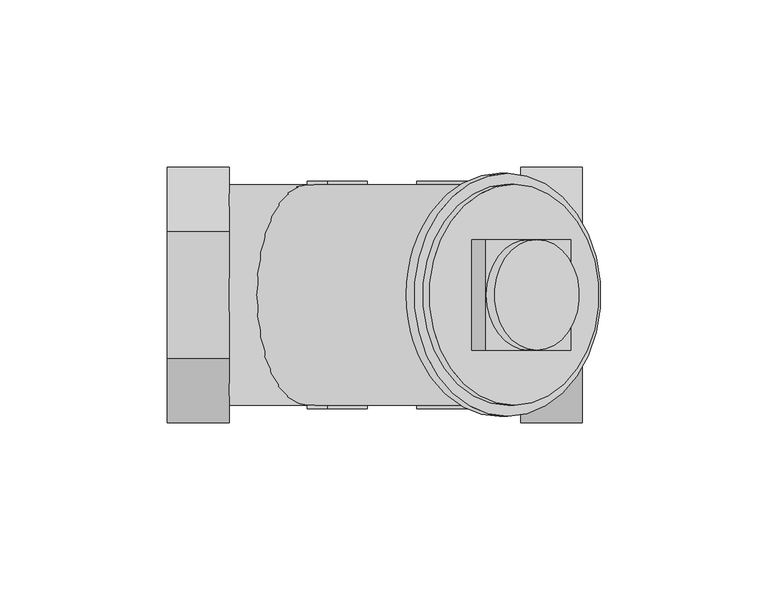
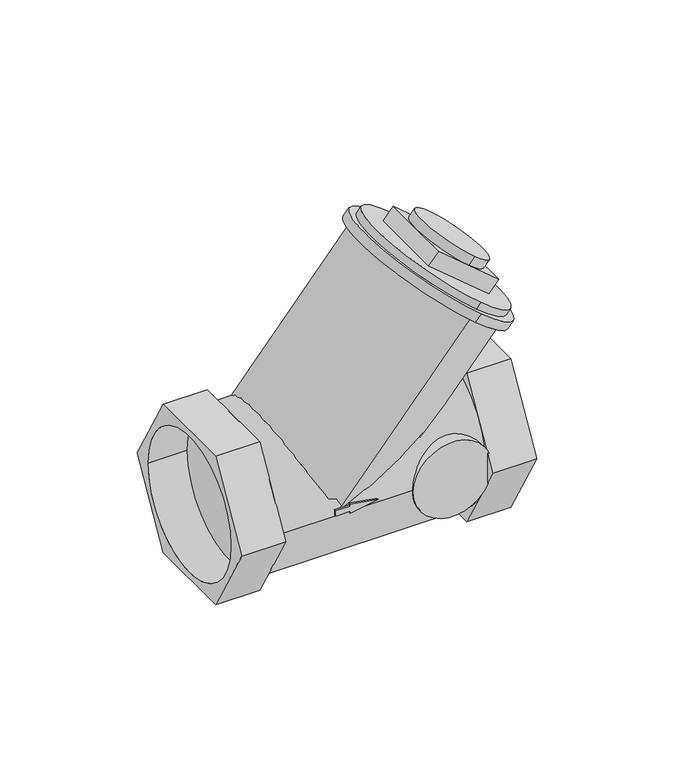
"""IFC4 building model written with IfcOpenShell, lengths in millimetres: valve geometry, 400_5-_KOMF_terugslagklep_PN_25_brons_DN15-50 : DN50 2”."""

import ifcopenshell
import ifcopenshell.guid

model = None  # the IFC model being written
_history = None  # IfcOwnerHistory: only IFC2X3 demands one
_inside = {}  # id of a spatial element -> (the spatial element, [elements in it])
_under = {}  # id of a project, library or spatial element -> (it, [spatial elements below it])
_declared = {}  # id of a project -> (the project, [libraries it declares])
_typed = {}  # id of a type object -> (the type object, [elements of that type])
_made_of = {}  # id of a material, layer set ... -> (it, [elements and type objects made of it])


def new_model(schema):
    """Start an empty IFC model of exactly this schema.

    Asked for "IFC4X3", IfcOpenShell would pick the latest addendum, in which some entities
    have other attributes; the version numbers below select the first issue.
    IFC2X3 requires an IfcOwnerHistory on every rooted entity: one is made here for all.
    """
    global model, _history
    if schema == "IFC4X3":
        model = ifcopenshell.file(schema_version=(4, 3, 0, 0))
    else:
        model = ifcopenshell.file(schema=schema)
    _inside.clear()
    _under.clear()
    _declared.clear()
    _typed.clear()
    _made_of.clear()
    _history = None
    if model.schema == "IFC2X3":
        org = make("IfcOrganization", Name="unknown")
        user = make(
            "IfcPersonAndOrganization",
            ThePerson=make("IfcPerson", FamilyName="unknown"),
            TheOrganization=org,
        )
        app = make(
            "IfcApplication",
            ApplicationDeveloper=org,
            Version="unknown",
            ApplicationFullName="unknown",
            ApplicationIdentifier="unknown",
        )
        _history = make(
            "IfcOwnerHistory",
            OwningUser=user,
            OwningApplication=app,
            ChangeAction="ADDED",
            CreationDate=0,
        )
    return model


def make(cls, **values):
    """One entity of the class cls with the attributes given. An attribute that is None is left unset."""
    return model.create_entity(
        cls, **{name: value for name, value in values.items() if value is not None}
    )


def rooted(cls, **values):
    """An entity with a GlobalId (a new one), such as an element, a storey or a relation."""
    return make(cls, GlobalId=ifcopenshell.guid.new(), OwnerHistory=_history, **values)


def si_unit(unit_type, name, prefix=None):
    """IfcSIUnit, for example si_unit("LENGTHUNIT", "METRE", prefix="MILLI")."""
    return make("IfcSIUnit", UnitType=unit_type, Prefix=prefix, Name=name)


def assignment(units):
    """IfcUnitAssignment: the units of a project."""
    return None if units is None else make("IfcUnitAssignment", Units=units)


def point(xyz):
    """IfcCartesianPoint."""
    return None if xyz is None else make("IfcCartesianPoint", Coordinates=xyz)


def direction(xyz):
    """IfcDirection."""
    return None if xyz is None else make("IfcDirection", DirectionRatios=xyz)


def frame(location, z_axis=None, x_axis=None):
    """IfcAxis2Placement3D, a coordinate frame: its origin and axes. An axis left out is left unset."""
    return make(
        "IfcAxis2Placement3D",
        Location=point(location),
        Axis=direction(z_axis),
        RefDirection=direction(x_axis),
    )


def frame_2d(location, x_axis=None):
    """IfcAxis2Placement2D, a coordinate frame in the plane: its origin and x axis."""
    return make(
        "IfcAxis2Placement2D", Location=point(location), RefDirection=direction(x_axis)
    )


def origin():
    """The frame at (0, 0, 0) with its axes left unset."""
    return frame((0.0, 0.0, 0.0))


def origin_2d():
    """The frame at (0, 0) in the plane with its x axis left unset."""
    return frame_2d((0.0, 0.0))


def place(relative_to, where):
    """IfcLocalPlacement: puts the frame where relative to a parent placement (None: the world)."""
    return make(
        "IfcLocalPlacement", PlacementRelTo=relative_to, RelativePlacement=where
    )


def context(
    kind, dimensions, precision=None, world=None, true_north=None, identifier=None
):
    """IfcGeometricRepresentationContext, for example the 3D "Model" context."""
    return make(
        "IfcGeometricRepresentationContext",
        ContextIdentifier=identifier,
        ContextType=kind,
        CoordinateSpaceDimension=dimensions,
        Precision=precision,
        WorldCoordinateSystem=world,
        TrueNorth=true_north,
    )


def project(units=None, contexts=None):
    """IfcProject with its units and contexts."""
    return rooted(
        "IfcProject",
        Name="project",
        RepresentationContexts=contexts,
        UnitsInContext=assignment(units),
    )


def spatial(cls, under=None, at=None, **own):
    """A site, building, storey or space (cls), placed at a placement, below another one or the project."""
    s = rooted(cls, ObjectPlacement=at, **own)
    if under is not None:
        _under.setdefault(under.id(), (under, []))[1].append(s)
    return s


def polyline(points):
    """IfcPolyline through the points."""
    return make("IfcPolyline", Points=[point(p) for p in points])


def circle_curve(where, radius):
    """IfcCircle in the frame where."""
    return make("IfcCircle", Position=where, Radius=radius)


def ellipse_curve(where, semi_axis1, semi_axis2):
    """IfcEllipse in the frame where."""
    return make(
        "IfcEllipse", Position=where, SemiAxis1=semi_axis1, SemiAxis2=semi_axis2
    )


def trimmed(basis, trim1, trim2, sense, master):
    """IfcTrimmedCurve: the piece of a basis curve between two trims."""
    return make(
        "IfcTrimmedCurve",
        BasisCurve=basis,
        Trim1=trim1,
        Trim2=trim2,
        SenseAgreement=sense,
        MasterRepresentation=master,
    )


def segment(curve, same_sense, transition):
    """IfcCompositeCurveSegment."""
    return make(
        "IfcCompositeCurveSegment",
        Transition=transition,
        SameSense=same_sense,
        ParentCurve=curve,
    )


def composite_curve(segments, self_intersect=None):
    """IfcCompositeCurve: segments joined end to end."""
    return make("IfcCompositeCurve", Segments=segments, SelfIntersect=self_intersect)


def outline(outer, holes=None, kind="AREA"):
    """IfcArbitraryClosedProfileDef: a profile drawn as a closed curve; with holes, ...WithVoids."""
    if holes is None:
        return make("IfcArbitraryClosedProfileDef", ProfileType=kind, OuterCurve=outer)
    return make(
        "IfcArbitraryProfileDefWithVoids",
        ProfileType=kind,
        OuterCurve=outer,
        InnerCurves=holes,
    )


def extrude(swept, where, along, depth):
    """IfcExtrudedAreaSolid: the profile swept, set in the frame where, extruded along a direction by depth."""
    return make(
        "IfcExtrudedAreaSolid",
        SweptArea=swept,
        Position=where,
        ExtrudedDirection=direction(along),
        Depth=depth,
    )


def shape(context_of_items, identifier, shape_type, items):
    """IfcShapeRepresentation: the items that make up one representation, for example the "Body"."""
    return make(
        "IfcShapeRepresentation",
        ContextOfItems=context_of_items,
        RepresentationIdentifier=identifier,
        RepresentationType=shape_type,
        Items=items,
    )


def source(mapping_origin, context_of_items, identifier, shape_type, items):
    """IfcRepresentationMap: a shape defined once, which mapped items show again and again."""
    return make(
        "IfcRepresentationMap",
        MappingOrigin=mapping_origin,
        MappedRepresentation=shape(context_of_items, identifier, shape_type, items),
    )


def transform(
    local_origin,
    x_axis=None,
    y_axis=None,
    z_axis=None,
    scale=None,
    scale2=None,
    scale3=None,
    uniform=True,
):
    """IfcCartesianTransformationOperator3D, or its non-uniform kind. x_axis, y_axis, z_axis: its Axis1, 2, 3."""
    if uniform:
        return make(
            "IfcCartesianTransformationOperator3D",
            Axis1=direction(x_axis),
            Axis2=direction(y_axis),
            LocalOrigin=point(local_origin),
            Scale=scale,
            Axis3=direction(z_axis),
        )
    return make(
        "IfcCartesianTransformationOperator3DnonUniform",
        Axis1=direction(x_axis),
        Axis2=direction(y_axis),
        LocalOrigin=point(local_origin),
        Scale=scale,
        Axis3=direction(z_axis),
        Scale2=scale2,
        Scale3=scale3,
    )


def mapped(mapping_source, mapping_target):
    """IfcMappedItem: shows the shape of a source again, moved by a transform."""
    return make(
        "IfcMappedItem", MappingSource=mapping_source, MappingTarget=mapping_target
    )


def made_of(thing, what):
    """Note that an element or type object is made of a material, layer set ...; save() writes the relation."""
    if what is not None:
        _made_of.setdefault(what.id(), (what, []))[1].append(thing)
    return thing


def element(
    cls,
    number,
    at=None,
    inside=None,
    cuts=None,
    type_object=None,
    material=None,
    context=None,
    identifier="Body",
    shape_type=None,
    held_by="IfcProductDefinitionShape",
    body=None,
    shapes=None,
    **own,
):
    """One element of the class cls, such as IfcWall. Its Tag is "e" and its number.

    at: its placement. inside: the storey or other place that contains it. cuts: it is an
    opening in that element (IfcRelVoidsElement). A single representation is given by context,
    identifier, shape_type and body (its items); several are given by shapes. held_by: the class
    of the entity that holds the representations. save() writes the other relations.
    """
    e = rooted(cls, Tag="e%d" % number, ObjectPlacement=at, **own)
    if body is not None:
        shapes = [shape(context, identifier, shape_type, body)]
    if shapes is not None:
        e.Representation = make(held_by, Representations=shapes)
    if inside is not None:
        _inside.setdefault(inside.id(), (inside, []))[1].append(e)
    if cuts is not None:
        rooted(
            "IfcRelVoidsElement", RelatingBuildingElement=cuts, RelatedOpeningElement=e
        )
    if type_object is not None:
        _typed.setdefault(type_object.id(), (type_object, []))[1].append(e)
    return made_of(e, material)


def aggregate(whole, parts):
    """IfcRelAggregates: a whole, such as a stair, and the parts it consists of."""
    return rooted("IfcRelAggregates", RelatingObject=whole, RelatedObjects=parts)


def save(model, path):
    """Write the relations noted so far, then the file.

    IfcRelAggregates (storeys below a building ...), IfcRelContainedInSpatialStructure (elements
    in a storey), IfcRelDefinesByType, IfcRelAssociatesMaterial and IfcRelDeclares: one each for
    every whole, place, type object, material and project.
    """
    for whole, parts in _under.values():
        aggregate(whole, parts)
    for where, things in _inside.values():
        rooted(
            "IfcRelContainedInSpatialStructure",
            RelatedElements=things,
            RelatingStructure=where,
        )
    for kind, things in _typed.values():
        rooted("IfcRelDefinesByType", RelatedObjects=things, RelatingType=kind)
    for what, things in _made_of.values():
        rooted("IfcRelAssociatesMaterial", RelatedObjects=things, RelatingMaterial=what)
    for by, libraries in _declared.values():
        rooted("IfcRelDeclares", RelatingContext=by, RelatedDefinitions=libraries)
    model.write(path)


def plane_surface(at):
    """IfcPlane: the flat surface through the origin of the frame at, square to its z axis."""
    return make("IfcPlane", Position=at)


def cylinder_surface(at, radius):
    """IfcCylindricalSurface: all points at the distance radius from the z axis of the frame at."""
    return make("IfcCylindricalSurface", Position=at, Radius=radius)


def revolved_surface(curve, axis_point, axis_direction):
    """IfcSurfaceOfRevolution: the curve turned about the line through axis_point along axis_direction."""
    return make(
        "IfcSurfaceOfRevolution",
        SweptCurve=make("IfcArbitraryOpenProfileDef", ProfileType="CURVE", Curve=curve),
        AxisPosition=make("IfcAxis1Placement", Location=point(axis_point), Axis=direction(axis_direction)),
    )


def advanced_brep(points, edges, surfaces, faces):
    """IfcAdvancedBrep: a solid bounded by faces that lie on surfaces and meet in shared edges.

    An edge is (start, end): straight between two places in points (the first is 0);
    or (start, end, curve); or (start, end, curve, False) where it runs against its curve.
    A face is (place in surfaces, loops), or (place, loops, False) where it looks against
    its surface's normal. A loop lists edges by number (the first is 1), with a minus sign
    where the edge is run from its end to its start. The first loop is the outer one.
    """
    corners = [point(p) for p in points]
    vertices = [make("IfcVertexPoint", VertexGeometry=c) for c in corners]
    made = []
    for start, end, *more in edges:
        made.append(
            make(
                "IfcEdgeCurve",
                EdgeStart=vertices[start],
                EdgeEnd=vertices[end],
                EdgeGeometry=more[0] if more else make("IfcPolyline", Points=[corners[start], corners[end]]),
                SameSense=more[1] if len(more) > 1 else True,
            )
        )
    hull = []
    for where, loops, *sense in faces:
        bounds = []
        for j, loop in enumerate(loops):
            ring = [make("IfcOrientedEdge", EdgeElement=made[abs(k) - 1], Orientation=k > 0) for k in loop]
            bounds.append(
                make(
                    "IfcFaceOuterBound" if j == 0 else "IfcFaceBound",
                    Bound=make("IfcEdgeLoop", EdgeList=ring),
                    Orientation=True,
                )
            )
        hull.append(make("IfcAdvancedFace", Bounds=bounds, FaceSurface=surfaces[where], SameSense=sense[0] if sense else True))
    return make("IfcAdvancedBrep", Outer=make("IfcClosedShell", CfsFaces=hull))


def valve_750de32e(model_context):
    return source(origin(), model_context, "Body", "SolidModel", [
        extrude(outline(composite_curve([segment(trimmed(circle_curve(origin_2d(), 33.0), [point((-33.0, 0.0))], [point((33.0, 0.0))], False, "CARTESIAN"), True, "CONTINUOUS"), segment(trimmed(circle_curve(origin_2d(), 33.0), [point((33.0, 0.0))], [point((-33.0, 0.0))], False, "CARTESIAN"), True, "CONTINUOUS")], self_intersect=False)), frame((-51.9929699, 0.0, 0.0), z_axis=(1.0, 0.0, 0.0), x_axis=(0.0, 1.0, 0.0)), (0.0, 0.0, 1.0), 86.9929669),
        extrude(outline(composite_curve([segment(trimmed(circle_curve(frame_2d((0.0, 20.499997)), 16.5), [point((0.0, 3.999997))], [point((0.0, 36.999997))], False, "CARTESIAN"), True, "CONTINUOUS"), segment(trimmed(circle_curve(frame_2d((0.0, 20.499997)), 16.5), [point((0.0, 36.999997))], [point((0.0, 3.999997))], False, "CARTESIAN"), True, "CONTINUOUS")], self_intersect=False)), frame((0.0, -34.0, 0.0), z_axis=(0.0, 1.0, 0.0), x_axis=(0.0, 0.0, 1.0)), (0.0, 0.0, 1.0), 68.0),
        advanced_brep(
        [(-51.9929699, -19.0525589, 33.0), (-51.9929699, -28.5788383, 16.5), (-51.9929699, -38.1051178, 0.0), (-51.9929699, -28.5788383, -16.5), (-51.9929699, -19.0525589, -33.0), (-51.9929699, 0.0, -33.0), (-51.9929699, 19.0525589, -33.0), (-51.9929699, 28.5788383, -16.5), (-51.9929699, 38.1051178, 0.0), (-51.9929699, 28.5788383, 16.5), (-51.9929699, 19.0525589, 33.0), (-51.9929699, 0.0, 33.0), (-51.9929699, 12.8862461, 19.5278903), (-51.9929699, -12.8862461, 19.5278903), (-70.500003, -19.0525589, 33.0), (-70.500003, 19.0525589, 33.0), (-70.500003, 38.1051178, 0.0), (-70.500003, 19.0525589, -33.0), (-70.500003, -19.0525589, -33.0), (-70.500003, -38.1051178, 0.0), (-70.500003, -30.15, 0.0), (-70.500003, 30.15, 0.0), (-54.000003, -30.15, 0.0), (-54.000003, 30.15, 0.0), (53.499997, -19.0525589, 33.0), (53.499997, -38.1051178, 0.0), (53.499997, -19.0525589, -33.0), (53.499997, 19.0525589, -33.0), (53.499997, 38.1051178, 0.0), (53.499997, 19.0525589, 33.0), (53.499997, 30.15, 0.0), (53.499997, -30.15, 0.0), (34.999997, 18.0886022, 33.0), (34.999997, 19.0525589, 33.0), (34.999997, 28.5788383, 16.5), (34.999997, 38.1051178, 0.0), (34.999997, 28.5788383, -16.5), (34.999997, 19.0525589, -33.0), (34.999997, 0.0, -33.0), (34.999997, -19.0525589, -33.0), (34.999997, -28.5788383, -16.5), (34.999997, -38.1051178, 0.0), (34.999997, -28.5788383, 16.5), (34.999997, -19.0525589, 33.0), (34.999997, -18.0886022, 33.0), (34.999997, -14.3567226, 29.7133727), (34.999997, 14.3567226, 29.7133727), (-28.7205364, -34.0, 3.1116273), (-28.7205364, -34.0, 0.829442), (-22.5788058, -34.0, 0.829442), (-22.5788058, -34.0, 0.0332575), (-10.8483948, -34.0, 1.9705347), (-22.5788058, -34.0, 3.9078118), (-22.5788058, -34.0, 3.1116273), (-28.7205364, 34.0, 3.1116273), (-22.5788058, 34.0, 3.1116273), (-22.5788058, 34.0, 3.9078118), (-10.8483948, 34.0, 1.9705347), (-22.5788058, 34.0, 0.0332575), (-22.5788058, 34.0, 0.829442), (-28.7205364, 34.0, 0.829442), (-28.7205364, -32.9393312, 3.1116273), (-28.7205364, -32.9956928, 0.829442), (-28.7205364, 32.9956928, 0.829442), (-28.7205364, 32.9393312, 3.1116273), (-28.0245519, -33.0, 0.829442), (-26.9417923, -32.9895745, 0.829442), (-22.5788058, -32.7352571, 0.829442), (-22.5788058, -32.9895745, 0.829442), (-22.5788058, 32.9895745, 0.829442), (-22.5788058, 32.7352571, 0.829442), (-26.9417923, 32.9895745, 0.829442), (-28.0245519, 33.0, 0.829442), (-22.5788058, -32.6659638, 0.0332575), (-22.5788058, -32.9999832, 0.0332575), (-22.5788058, 32.9999832, 0.0332575), (-22.5788058, 32.6659638, 0.0332575), (-10.8483948, -30.5718624, 1.9705347), (-10.8483948, -32.941114, 1.9705347), (-10.8483948, 32.941114, 1.9705347), (-10.8483948, 30.5718624, 1.9705347), (-20.9256849, -32.7992109, 3.6347989), (-22.5788058, -32.9270556, 3.9078118), (-22.5788058, 32.9270556, 3.9078118), (-20.9256849, 32.7992109, 3.6347989), (-22.5788058, -32.8889719, 3.1116273), (-22.5788058, 32.8889719, 3.1116273), (-26.109571, -33.0, 3.1116273), (-26.109571, 33.0, 3.1116273), (49.9394198, 0.0, 68.0738422), (49.9394198, 16.5, 68.0738422), (37.2996865, 16.5, 78.6798378), (24.6599532, 16.5, 89.2858333), (24.6599532, 0.0, 89.2858333), (24.6599532, -16.5, 89.2858333), (37.2996865, -16.5, 78.6798378), (49.9394198, -16.5, 68.0738422), (20.4337115, 16.5, 84.2491946), (20.4337115, -16.5, 84.2491946), (45.7131781, -16.5, 63.0372035), (45.7131781, 16.5, 63.0372035), (-28.7205364, 33.0, 0.0), (-28.7205364, -33.0, 0.0), (28.6943989, -33.0, 68.4244553), (28.6943989, 33.0, 68.4244553), (28.6943989, 36.3, 68.4244553), (28.6943989, -36.3, 68.4244553), (31.1317523, 36.3, 71.3291801), (31.1317523, -36.3, 71.3291801), (31.1317523, 33.0, 71.3291801), (31.1317523, -33.0, 71.3291801), (33.0734448, -33.0, 73.6431991), (33.0734448, 33.0, 73.6431991), (39.8670589, 16.5, 81.739513), (39.8670589, -16.5, 81.739513), (36.999997, -30.15, 0.0), (36.999997, 30.15, 0.0)],
        [
            (0, 1),
            (1, 2),
            (2, 3),
            (3, 4),
            (4, 5),
            (5, 6),
            (6, 7),
            (7, 8),
            (8, 9),
            (9, 10),
            (10, 11),
            (11, 0),
            (12, 13),
            (13, 12, ellipse_curve(frame((-51.9929699, 0.0, -27.7350062), z_axis=(-1.0, 0.0, 0.0), x_axis=(0.0, 0.0, 1.0)), 51.3388863, 33.0)),
            (14, 15),
            (15, 16),
            (16, 17),
            (17, 18),
            (18, 19),
            (19, 14),
            (20, 21, circle_curve(frame((-70.500003, 0.0, 0.0), z_axis=(1.0, 0.0, 0.0), x_axis=(0.0, 1.0, 0.0)), 30.15)),
            (21, 20, circle_curve(frame((-70.500003, 0.0, 0.0), z_axis=(1.0, 0.0, 0.0), x_axis=(0.0, 1.0, 0.0)), 30.15)),
            (19, 2),
            (0, 14),
            (18, 4),
            (17, 6),
            (16, 8),
            (15, 10),
            (22, 23, circle_curve(frame((-54.000003, 0.0, 0.0), z_axis=(-1.0, 0.0, 0.0), x_axis=(0.0, 1.0, 0.0)), 30.15)),
            (23, 22, circle_curve(frame((-54.000003, 0.0, 0.0), z_axis=(-1.0, 0.0, 0.0), x_axis=(0.0, 1.0, 0.0)), 30.15)),
            (24, 25),
            (25, 26),
            (26, 27),
            (27, 28),
            (28, 29),
            (29, 24),
            (30, 31, circle_curve(frame((53.499997, 0.0, 0.0), z_axis=(-1.0, 0.0, 0.0), x_axis=(0.0, 1.0, 0.0)), 30.15)),
            (31, 30, circle_curve(frame((53.499997, 0.0, 0.0), z_axis=(-1.0, 0.0, 0.0), x_axis=(0.0, 1.0, 0.0)), 30.15)),
            (32, 33),
            (33, 34),
            (34, 35),
            (35, 36),
            (36, 37),
            (37, 38),
            (38, 39),
            (39, 40),
            (40, 41),
            (41, 42),
            (42, 43),
            (43, 44),
            (44, 45, ellipse_curve(frame((34.999997, 0.0, 75.9391746), z_axis=(1.0, 0.0, 0.0), x_axis=(0.0, 0.0, 1.0)), 51.3388863, 33.0)),
            (45, 46, ellipse_curve(frame((34.999997, 0.0, 75.9391746), z_axis=(1.0, 0.0, 0.0), x_axis=(0.0, 0.0, 1.0)), 51.3388863, 33.0)),
            (46, 32, ellipse_curve(frame((34.999997, 0.0, 75.9391746), z_axis=(1.0, 0.0, 0.0), x_axis=(0.0, 0.0, 1.0)), 51.3388863, 33.0)),
            (24, 43),
            (41, 25),
            (39, 26),
            (37, 27),
            (35, 28),
            (33, 29),
            (32, 44, ellipse_curve(frame((-1.0302486, 0.0, 33.0), z_axis=(0.0, 0.0, -1.0), x_axis=(1.0, 0.0, 0.0)), 43.0784405, 33.0)),
            (47, 48),
            (48, 49),
            (49, 50),
            (50, 51),
            (51, 52),
            (52, 53),
            (53, 47),
            (54, 55),
            (55, 56),
            (56, 57),
            (57, 58),
            (58, 59),
            (59, 60),
            (60, 54),
            (47, 61),
            (61, 62, ellipse_curve(frame((-28.7205364, 0.0, 0.0), z_axis=(1.0, 0.0, 0.0), x_axis=(0.0, 0.0, 1.0)), 51.3388863, 33.0)),
            (62, 48),
            (60, 63),
            (63, 64, ellipse_curve(frame((-28.7205364, 0.0, 0.0), z_axis=(1.0, 0.0, 0.0), x_axis=(0.0, 0.0, 1.0)), 51.3388863, 33.0)),
            (64, 54),
            (62, 65, ellipse_curve(frame((-28.0245519, 0.0, 0.829442), z_axis=(0.0, 0.0, 1.0), x_axis=(1.0, 0.0, 0.0)), 43.0784405, 33.0)),
            (65, 66, ellipse_curve(frame((-28.0245519, 0.0, 0.829442), z_axis=(0.0, 0.0, 1.0), x_axis=(1.0, 0.0, 0.0)), 43.0784405, 33.0)),
            (66, 67, ellipse_curve(frame((-28.0245519, 0.0, 0.829442), z_axis=(0.0, 0.0, 1.0), x_axis=(1.0, 0.0, 0.0)), 43.0784405, 33.0)),
            (67, 68),
            (68, 49),
            (59, 69),
            (69, 70),
            (70, 71, ellipse_curve(frame((-28.0245519, 0.0, 0.829442), z_axis=(0.0, 0.0, 1.0), x_axis=(1.0, 0.0, 0.0)), 43.0784405, 33.0)),
            (71, 72, ellipse_curve(frame((-28.0245519, 0.0, 0.829442), z_axis=(0.0, 0.0, 1.0), x_axis=(1.0, 0.0, 0.0)), 43.0784405, 33.0)),
            (72, 63, ellipse_curve(frame((-28.0245519, 0.0, 0.829442), z_axis=(0.0, 0.0, 1.0), x_axis=(1.0, 0.0, 0.0)), 43.0784405, 33.0)),
            (67, 73, ellipse_curve(frame((-22.5788058, 0.0, 7.3194295), z_axis=(1.0, 0.0, 0.0), x_axis=(0.0, 0.0, 1.0)), 51.3388863, 33.0)),
            (73, 74),
            (74, 50),
            (58, 75),
            (75, 76),
            (76, 70, ellipse_curve(frame((-22.5788058, 0.0, 7.3194295), z_axis=(1.0, 0.0, 0.0), x_axis=(0.0, 0.0, 1.0)), 51.3388863, 33.0)),
            (73, 77, ellipse_curve(frame((-29.6761625, 0.0, -1.1388708), z_axis=(-0.1629428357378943, 0.0, 0.9866355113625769), x_axis=(0.9866355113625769, 0.0, 0.1629428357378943)), 50.6858708, 33.0)),
            (77, 78),
            (78, 51),
            (57, 79),
            (79, 80),
            (80, 76, ellipse_curve(frame((-29.6761625, 0.0, -1.1388708), z_axis=(-0.1629428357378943, 0.0, 0.9866355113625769), x_axis=(0.9866355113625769, 0.0, 0.1629428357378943)), 50.6858708, 33.0)),
            (77, 81, ellipse_curve(frame((-25.0930727, 0.0, 4.3230429), z_axis=(-0.1629428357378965, 0.0, -0.9866355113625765), x_axis=(0.9866355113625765, 0.0, -0.16294283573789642)), 38.347823, 33.0)),
            (81, 82, ellipse_curve(frame((-25.0930727, 0.0, 4.3230429), z_axis=(-0.1629428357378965, 0.0, -0.9866355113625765), x_axis=(0.9866355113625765, 0.0, -0.16294283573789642)), 38.347823, 33.0)),
            (82, 52),
            (56, 83),
            (83, 84, ellipse_curve(frame((-25.0930727, 0.0, 4.3230429), z_axis=(-0.1629428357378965, 0.0, -0.9866355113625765), x_axis=(0.9866355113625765, 0.0, -0.16294283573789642)), 38.347823, 33.0)),
            (84, 80, ellipse_curve(frame((-25.0930727, 0.0, 4.3230429), z_axis=(-0.1629428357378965, 0.0, -0.9866355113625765), x_axis=(0.9866355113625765, 0.0, -0.16294283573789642)), 38.347823, 33.0)),
            (82, 85, ellipse_curve(frame((-22.5788058, 0.0, 7.3194295), z_axis=(1.0, 0.0, 0.0), x_axis=(0.0, 0.0, 1.0)), 51.3388863, 33.0)),
            (85, 53),
            (55, 86),
            (86, 83, ellipse_curve(frame((-22.5788058, 0.0, 7.3194295), z_axis=(1.0, 0.0, 0.0), x_axis=(0.0, 0.0, 1.0)), 51.3388863, 33.0)),
            (85, 87, ellipse_curve(frame((-26.109571, 0.0, 3.1116273), z_axis=(0.0, 0.0, -1.0), x_axis=(1.0, 0.0, 0.0)), 43.0784405, 33.0)),
            (87, 61, ellipse_curve(frame((-26.109571, 0.0, 3.1116273), z_axis=(0.0, 0.0, -1.0), x_axis=(1.0, 0.0, 0.0)), 43.0784405, 33.0)),
            (64, 88, ellipse_curve(frame((-26.109571, 0.0, 3.1116273), z_axis=(0.0, 0.0, -1.0), x_axis=(1.0, 0.0, 0.0)), 43.0784405, 33.0)),
            (88, 86, ellipse_curve(frame((-26.109571, 0.0, 3.1116273), z_axis=(0.0, 0.0, -1.0), x_axis=(1.0, 0.0, 0.0)), 43.0784405, 33.0)),
            (89, 90),
            (90, 91),
            (91, 89, circle_curve(frame((37.2996865, 0.0, 78.6798378), z_axis=(-0.6427876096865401, 0.0, -0.7660444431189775), x_axis=(0.0, -1.0, 0.0)), 16.5)),
            (92, 93),
            (93, 91, circle_curve(frame((37.2996865, 0.0, 78.6798378), z_axis=(-0.6427876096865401, 0.0, -0.7660444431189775), x_axis=(0.0, -1.0, 0.0)), 16.5)),
            (91, 92),
            (93, 94),
            (94, 95),
            (95, 93, circle_curve(frame((37.2996865, 0.0, 78.6798378), z_axis=(-0.6427876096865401, 0.0, -0.7660444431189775), x_axis=(0.0, -1.0, 0.0)), 16.5)),
            (95, 96),
            (96, 89),
            (89, 95, circle_curve(frame((37.2996865, 0.0, 78.6798378), z_axis=(-0.6427876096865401, 0.0, -0.7660444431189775), x_axis=(0.0, -1.0, 0.0)), 16.5)),
            (92, 97),
            (97, 98),
            (98, 94),
            (98, 99),
            (99, 96),
            (99, 100),
            (100, 90),
            (100, 97),
            (101, 102, circle_curve(frame((-28.7205364, 0.0, 0.0), z_axis=(-0.6427876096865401, 0.0, -0.7660444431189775), x_axis=(0.0, -1.0, 0.0)), 33.0)),
            (102, 13, circle_curve(frame((-28.7205364, 0.0, 0.0), z_axis=(-0.6427876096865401, 0.0, -0.7660444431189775), x_axis=(0.0, -1.0, 0.0)), 33.0)),
            (12, 101, circle_curve(frame((-28.7205364, 0.0, 0.0), z_axis=(-0.6427876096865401, 0.0, -0.7660444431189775), x_axis=(0.0, -1.0, 0.0)), 33.0)),
            (102, 65),
            (87, 103),
            (103, 104, circle_curve(frame((28.6943989, 0.0, 68.4244553), z_axis=(-0.6427876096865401, 0.0, -0.7660444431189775), x_axis=(0.0, -1.0, 0.0)), 33.0)),
            (104, 88),
            (72, 101),
            (104, 103, circle_curve(frame((28.6943989, 0.0, 68.4244553), z_axis=(-0.6427876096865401, 0.0, -0.7660444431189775), x_axis=(0.0, -1.0, 0.0)), 33.0)),
            (105, 106, circle_curve(frame((28.6943989, 0.0, 68.4244553), z_axis=(-0.64278760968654, 0.0, -0.7660444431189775), x_axis=(0.0, -1.0, 0.0)), 36.3)),
            (106, 105, circle_curve(frame((28.6943989, 0.0, 68.4244553), z_axis=(-0.64278760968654, 0.0, -0.7660444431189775), x_axis=(0.0, -1.0, 0.0)), 36.3)),
            (107, 108, circle_curve(frame((31.1317523, 0.0, 71.3291801), z_axis=(0.64278760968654, 0.0, 0.7660444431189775), x_axis=(0.0, -1.0, 0.0)), 36.3)),
            (108, 107, circle_curve(frame((31.1317523, 0.0, 71.3291801), z_axis=(0.64278760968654, 0.0, 0.7660444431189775), x_axis=(0.0, -1.0, 0.0)), 36.3)),
            (109, 110, circle_curve(frame((31.1317523, 0.0, 71.3291801), z_axis=(-0.64278760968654, 0.0, -0.7660444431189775), x_axis=(0.0, -1.0, 0.0)), 33.0)),
            (110, 109, circle_curve(frame((31.1317523, 0.0, 71.3291801), z_axis=(-0.64278760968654, 0.0, -0.7660444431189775), x_axis=(0.0, -1.0, 0.0)), 33.0)),
            (111, 112, circle_curve(frame((33.0734448, 0.0, 73.6431991), z_axis=(0.64278760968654, 0.0, 0.7660444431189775), x_axis=(0.0, -1.0, 0.0)), 33.0)),
            (112, 111, circle_curve(frame((33.0734448, 0.0, 73.6431991), z_axis=(0.64278760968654, 0.0, 0.7660444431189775), x_axis=(0.0, -1.0, 0.0)), 33.0)),
            (111, 110),
            (109, 112),
            (113, 114, circle_curve(frame((39.8670589, 0.0, 81.739513), z_axis=(0.6427876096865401, 0.0, 0.7660444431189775), x_axis=(0.0, -1.0, 0.0)), 16.5)),
            (114, 113, circle_curve(frame((39.8670589, 0.0, 81.739513), z_axis=(0.6427876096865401, 0.0, 0.7660444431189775), x_axis=(0.0, -1.0, 0.0)), 16.5)),
            (113, 91),
            (95, 114),
            (106, 108),
            (107, 105),
            (23, 21),
            (20, 22),
            (115, 116, circle_curve(frame((36.999997, 0.0, 0.0), z_axis=(1.0, 0.0, 0.0), x_axis=(0.0, 1.0, 0.0)), 30.15)),
            (116, 115, circle_curve(frame((36.999997, 0.0, 0.0), z_axis=(1.0, 0.0, 0.0), x_axis=(0.0, 1.0, 0.0)), 30.15)),
            (115, 31),
            (30, 116),
        ],
        [
            plane_surface(frame((-51.9929699, -38.1051178, 0.0), z_axis=(1.0, 0.0, 0.0), x_axis=(0.0, -0.4999999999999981, -0.8660254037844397))),
            plane_surface(frame((-70.500003, -38.1051178, 0.0), z_axis=(-1.0, 0.0, 0.0), x_axis=(0.0, 0.4999999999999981, 0.8660254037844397))),
            plane_surface(frame((-51.9929699, -19.0525589, 33.0), z_axis=(0.0, -0.8660254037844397, 0.4999999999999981), x_axis=(-1.0, 0.0, 0.0))),
            plane_surface(frame((-51.9929699, -38.1051178, 0.0), z_axis=(0.0, -0.8660254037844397, -0.4999999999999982), x_axis=(-1.0, 0.0, 0.0))),
            plane_surface(frame((-51.9929699, -19.0525589, -33.0), z_axis=(0.0, 0.0, -1.0), x_axis=(-1.0, 0.0, 0.0))),
            plane_surface(frame((-51.9929699, 19.0525589, -33.0), z_axis=(0.0, 0.8660254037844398, -0.4999999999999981), x_axis=(-1.0, 0.0, 0.0))),
            plane_surface(frame((-51.9929699, 38.1051178, 0.0), z_axis=(0.0, 0.8660254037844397, 0.4999999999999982), x_axis=(-1.0, 0.0, 0.0))),
            plane_surface(frame((-51.9929699, 19.0525589, 33.0), z_axis=(0.0, 0.0, 1.0), x_axis=(-1.0, 0.0, 0.0))),
            plane_surface(frame((-54.000003, 30.15, 0.0), z_axis=(-1.0, 0.0, 0.0), x_axis=(0.0, 0.0, 1.0))),
            plane_surface(frame((53.499997, -38.1051178, 0.0), z_axis=(1.0, 0.0, 0.0), x_axis=(0.0, -0.4999999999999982, -0.8660254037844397))),
            plane_surface(frame((34.999997, -38.1051178, 0.0), z_axis=(-1.0, 0.0, 0.0), x_axis=(0.0, 0.4999999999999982, 0.8660254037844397))),
            plane_surface(frame((53.499997, -19.0525589, 33.0), z_axis=(0.0, -0.8660254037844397, 0.4999999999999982), x_axis=(-1.0, 0.0, 0.0))),
            plane_surface(frame((53.499997, -38.1051178, 0.0), z_axis=(0.0, -0.8660254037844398, -0.4999999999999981), x_axis=(-1.0, 0.0, 0.0))),
            plane_surface(frame((53.499997, -19.0525589, -33.0), z_axis=(0.0, 0.0, -1.0), x_axis=(-1.0, 0.0, 0.0))),
            plane_surface(frame((53.499997, 19.0525589, -33.0), z_axis=(0.0, 0.8660254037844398, -0.4999999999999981), x_axis=(-1.0, 0.0, 0.0))),
            plane_surface(frame((53.499997, 38.1051178, 0.0), z_axis=(0.0, 0.8660254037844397, 0.4999999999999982), x_axis=(-1.0, 0.0, 0.0))),
            plane_surface(frame((53.499997, 19.0525589, 33.0), z_axis=(0.0, 0.0, 1.0), x_axis=(-1.0, 0.0, 0.0))),
            plane_surface(frame((-28.7205364, -34.0, 0.829442), z_axis=(0.0, -1.0, 0.0), x_axis=(0.0, 0.0, -1.0))),
            plane_surface(frame((-28.7205364, 34.0, 0.829442), z_axis=(0.0, 1.0, 0.0), x_axis=(0.0, 0.0, 1.0))),
            plane_surface(frame((-28.7205364, -34.0, 3.1116273), z_axis=(-1.0, 0.0, 0.0), x_axis=(0.0, 1.0, 0.0))),
            plane_surface(frame((-28.7205364, -34.0, 0.829442), z_axis=(0.0, 0.0, -1.0), x_axis=(0.0, 1.0, 0.0))),
            plane_surface(frame((-22.5788058, -34.0, 0.829442), z_axis=(-1.0, 0.0, 0.0), x_axis=(0.0, 1.0, 0.0))),
            plane_surface(frame((-22.5788058, -34.0, 0.0332575), z_axis=(0.1629428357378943, 0.0, -0.9866355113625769), x_axis=(0.0, 1.0, 0.0))),
            plane_surface(frame((-10.8483948, -34.0, 1.9705347), z_axis=(0.1629428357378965, 0.0, 0.9866355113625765), x_axis=(0.0, 1.0, 0.0))),
            plane_surface(frame((-22.5788058, -34.0, 3.9078118), z_axis=(-1.0, 0.0, 0.0), x_axis=(0.0, 1.0, 0.0))),
            plane_surface(frame((-22.5788058, -34.0, 3.1116273), z_axis=(0.0, 0.0, 1.0), x_axis=(0.0, 1.0, 0.0))),
            plane_surface(frame((24.6599532, -16.5, 89.2858333), z_axis=(0.6427876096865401, 0.0, 0.7660444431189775), x_axis=(0.0, -1.0, 0.0))),
            plane_surface(frame((24.6599532, 16.5, 89.2858333), z_axis=(-0.7660444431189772, 0.0, 0.6427876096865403), x_axis=(-0.6427876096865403, 0.0, -0.7660444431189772))),
            plane_surface(frame((24.6599532, -16.5, 89.2858333), z_axis=(0.0, -1.0000000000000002, 0.0), x_axis=(-0.6427876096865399, 0.0, -0.7660444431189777))),
            plane_surface(frame((49.9394198, -16.5, 68.0738422), z_axis=(0.766044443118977, 0.0, -0.6427876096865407), x_axis=(-0.6427876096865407, 0.0, -0.766044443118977))),
            plane_surface(frame((49.9394198, 16.5, 68.0738422), z_axis=(0.0, 1.0000000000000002, 0.0), x_axis=(-0.6427876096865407, 0.0, -0.766044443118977))),
            plane_surface(frame((-28.7205364, -33.0, 0.0), z_axis=(-0.6427876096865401, 0.0, -0.7660444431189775), x_axis=(-0.7660444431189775, 0.0, 0.6427876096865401))),
            cylinder_surface(frame((-28.7205364, 0.0, 0.0), z_axis=(0.6427876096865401, 0.0, 0.7660444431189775), x_axis=(0.0, -1.0, 0.0)), 33.0),
            plane_surface(frame((28.6943989, -36.3, 68.4244553), z_axis=(-0.64278760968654, 0.0, -0.7660444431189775), x_axis=(-0.7660444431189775, 0.0, 0.64278760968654))),
            plane_surface(frame((31.1317523, -36.3, 71.3291801), z_axis=(0.64278760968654, 0.0, 0.7660444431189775), x_axis=(0.7660444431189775, 0.0, -0.64278760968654))),
            plane_surface(frame((33.0734448, -33.0, 73.6431991), z_axis=(0.64278760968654, 0.0, 0.7660444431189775), x_axis=(0.7660444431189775, 0.0, -0.64278760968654))),
            cylinder_surface(frame((31.1317523, 0.0, 71.3291801), z_axis=(0.64278760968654, 0.0, 0.7660444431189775), x_axis=(0.0, -1.0, 0.0)), 33.0),
            plane_surface(frame((39.8670589, -16.5, 81.739513), z_axis=(0.6427876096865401, 0.0, 0.7660444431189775), x_axis=(0.7660444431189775, 0.0, -0.6427876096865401))),
            cylinder_surface(frame((37.2996865, 0.0, 78.6798378), z_axis=(0.6427876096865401, 0.0, 0.7660444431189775), x_axis=(0.0, -1.0, 0.0)), 16.5),
            cylinder_surface(frame((28.6943989, 0.0, 68.4244553), z_axis=(0.64278760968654, 0.0, 0.7660444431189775), x_axis=(0.0, -1.0, 0.0)), 36.3),
            revolved_surface(polyline([(-54.000003, 30.15, 0.0), (-70.500003, 30.15, 0.0)]), (-70.500003, 0.0, 0.0), (1.0, 0.0, 0.0)),
            plane_surface(frame((36.999997, 30.15, 0.0), z_axis=(1.0, 0.0, 0.0), x_axis=(0.0, 0.0, -1.0))),
            revolved_surface(polyline([(53.499997, 30.15, 0.0), (36.999997, 30.15, 0.0)]), (36.999997, 0.0, 0.0), (1.0, 0.0, 0.0)),
        ],
        [
            (0, [[1, 2, 3, 4, 5, 6, 7, 8, 9, 10, 11, 12], [13, 14]]),
            (1, [[15, 16, 17, 18, 19, 20], [21, 22]]),
            (2, [[-20, 23, -2, -1, 24]]),
            (3, [[-19, 25, -4, -3, -23]]),
            (4, [[-18, 26, -6, -5, -25]]),
            (5, [[-17, 27, -8, -7, -26]]),
            (6, [[-16, 28, -10, -9, -27]]),
            (7, [[-15, -24, -12, -11, -28]]),
            (8, [[29, 30]]),
            (9, [[31, 32, 33, 34, 35, 36], [37, 38]]),
            (10, [[39, 40, 41, 42, 43, 44, 45, 46, 47, 48, 49, 50, 51, 52, 53]]),
            (11, [[-31, 54, -49, -48, 55]]),
            (12, [[-32, -55, -47, -46, 56]]),
            (13, [[-33, -56, -45, -44, 57]]),
            (14, [[-34, -57, -43, -42, 58]]),
            (15, [[-35, -58, -41, -40, 59]]),
            (16, [[-36, -59, -39, 60, -50, -54]]),
            (17, [[61, 62, 63, 64, 65, 66, 67]]),
            (18, [[68, 69, 70, 71, 72, 73, 74]]),
            (19, [[-61, 75, 76, 77]]),
            (19, [[-74, 78, 79, 80]]),
            (20, [[-62, -77, 81, 82, 83, 84, 85]]),
            (20, [[-73, 86, 87, 88, 89, 90, -78]]),
            (21, [[-63, -85, -84, 91, 92, 93]]),
            (21, [[-72, 94, 95, 96, -87, -86]]),
            (22, [[-64, -93, -92, 97, 98, 99]]),
            (22, [[-71, 100, 101, 102, -95, -94]]),
            (23, [[-65, -99, -98, 103, 104, 105]]),
            (23, [[-70, 106, 107, 108, -101, -100]]),
            (24, [[-66, -105, 109, 110]]),
            (24, [[-69, 111, 112, -106]]),
            (25, [[-67, -110, 113, 114, -75]]),
            (25, [[-68, -80, 115, 116, -111]]),
            (26, [[117, 118, 119]]),
            (26, [[120, 121, 122]]),
            (26, [[123, 124, 125]]),
            (26, [[126, 127, 128]]),
            (27, [[129, 130, 131, -123, -120]]),
            (28, [[-131, 132, 133, -126, -124]]),
            (29, [[-133, 134, 135, -117, -127]]),
            (30, [[-129, -122, -118, -135, 136]]),
            (31, [[137, 138, -13, 139]]),
            (32, [[-138, 140, -81, -76, -114, 141, 142, 143, -115, -79, -90, 144, -139, -14]]),
            (32, [[-137, -144, -89, -88, -96, -102, -108, -107, -112, -116, -143, 145, -141, -113, -109, -104, -103, -97, -91, -83, -82, -140], [-60, -53, -52, -51]]),
            (33, [[146, 147], [-142, -145]]),
            (34, [[148, 149], [150, 151]]),
            (35, [[152, 153], [-130, -136, -134, -132]]),
            (36, [[-152, 154, -150, 155]]),
            (36, [[-153, -155, -151, -154]]),
            (37, [[156, 157]]),
            (38, [[-156, 158, -121, -125, 159]]),
            (38, [[-157, -159, -128, -119, -158]]),
            (39, [[-147, 160, -148, 161]]),
            (39, [[-146, -161, -149, -160]]),
            (40, [[-30, 162, -21, 163]]),
            (40, [[-29, -163, -22, -162]]),
            (41, [[164, 165]]),
            (42, [[-164, 166, -37, 167]]),
            (42, [[-165, -167, -38, -166]]),
        ],
    ),
    ])


if __name__ == "__main__":
    model = new_model("IFC4")
    model_context = context("Model", 3, world=origin())
    ifc_project = project(units=[si_unit("LENGTHUNIT", "METRE", prefix="MILLI")], contexts=[model_context])
    site = spatial("IfcSite", under=ifc_project)
    building = spatial("IfcBuilding", under=site)
    placement = place(None, origin())
    valve_shape = valve_750de32e(model_context)
    element("IfcValve", 1, ObjectType="400_5-_KOMF_terugslagklep_PN_25_brons_DN15-50 : DN50 2”", at=placement, inside=building, context=model_context, shape_type="MappedRepresentation", body=[
        mapped(valve_shape, transform((0.0, 0.0, 0.0), x_axis=(1.0, 0.0, 0.0), y_axis=(0.0, 1.0, 0.0), z_axis=(0.0, 0.0, 1.0))),
    ])
    save(model, "model.ifc")
